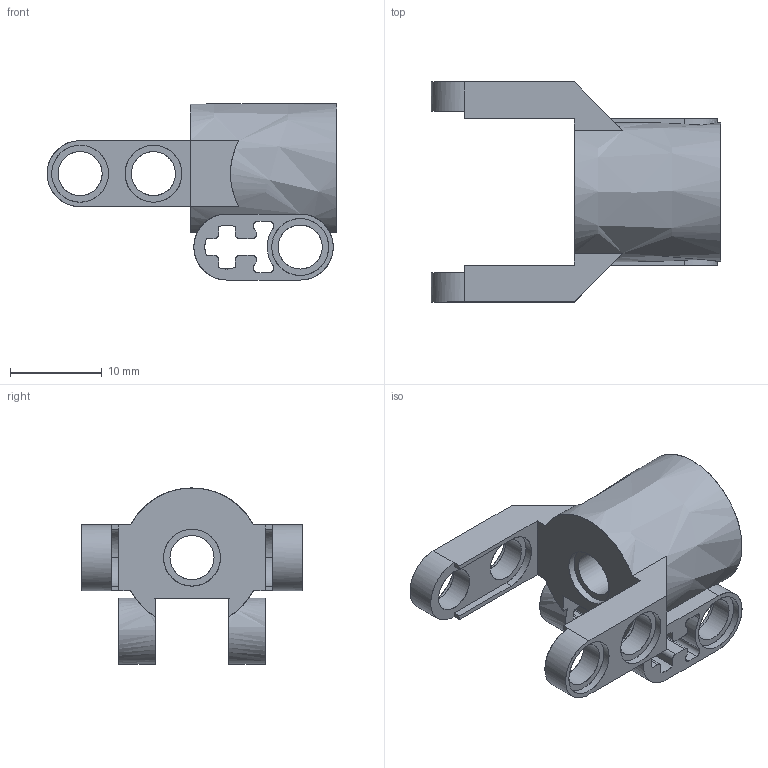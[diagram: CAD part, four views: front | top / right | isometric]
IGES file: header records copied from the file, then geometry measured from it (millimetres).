
Start section: C
Global section: file name: Gray_4528038_AVV.iges; native system: By Siemens PLM Incorporated; preprocessor: XPlus GENERIC/IGES 26.1.183; author: Author; organization: Title; date: 20250721.235943; units: millimetre
Bounding box: 31.6 x 24 x 19.2 mm (x, y, z)
Surface area: 3007.6 mm2 (no closed solid volume)
Topology: 0 solids, 0 shells, 139 faces, 824 edges, 824 vertices
Faces by surface type: bspline 139
